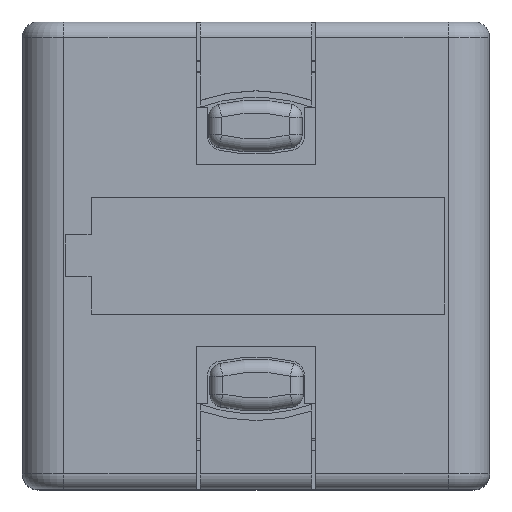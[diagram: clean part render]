
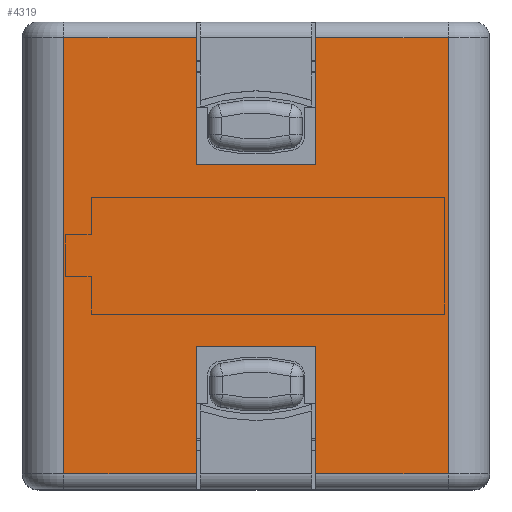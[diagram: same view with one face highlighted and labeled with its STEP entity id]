
A CAD part, top view. The second image highlights one B-rep face of the part: STEP entity #4319.
In plain terms, the highlighted planar face has unit normal (0, 0, 1).
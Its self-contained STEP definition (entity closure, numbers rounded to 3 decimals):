
#800=DIRECTION('',(1.,0.,0.));
#801=VECTOR('',#800,5.1);
#802=CARTESIAN_POINT('',(-7.4,8.4,14.5));
#803=LINE('',#802,#801);
#808=DIRECTION('',(-1.,0.,0.));
#809=VECTOR('',#808,4.6);
#810=CARTESIAN_POINT('',(2.3,3.5,14.5));
#811=LINE('',#810,#809);
#824=DIRECTION('',(0.,-1.,0.));
#825=VECTOR('',#824,4.9);
#826=CARTESIAN_POINT('',(-2.3,8.4,14.5));
#827=LINE('',#826,#825);
#941=DIRECTION('',(0.,1.,0.));
#942=VECTOR('',#941,4.9);
#943=CARTESIAN_POINT('',(2.3,3.5,14.5));
#944=LINE('',#943,#942);
#1006=DIRECTION('',(1.,0.,0.));
#1007=VECTOR('',#1006,5.1);
#1008=CARTESIAN_POINT('',(2.3,8.4,14.5));
#1009=LINE('',#1008,#1007);
#1014=DIRECTION('',(0.,-1.,0.));
#1015=VECTOR('',#1014,16.8);
#1016=CARTESIAN_POINT('',(7.4,8.4,14.5));
#1017=LINE('',#1016,#1015);
#1359=DIRECTION('',(-1.,0.,0.));
#1360=VECTOR('',#1359,5.1);
#1361=CARTESIAN_POINT('',(7.4,-8.4,14.5));
#1362=LINE('',#1361,#1360);
#1385=DIRECTION('',(0.,1.,0.));
#1386=VECTOR('',#1385,4.9);
#1387=CARTESIAN_POINT('',(2.3,-8.4,14.5));
#1388=LINE('',#1387,#1386);
#2244=DIRECTION('',(0.,-1.,0.));
#2245=VECTOR('',#2244,4.9);
#2246=CARTESIAN_POINT('',(-2.3,-3.5,14.5));
#2247=LINE('',#2246,#2245);
#2298=DIRECTION('',(0.,1.,0.));
#2299=VECTOR('',#2298,16.8);
#2300=CARTESIAN_POINT('',(-7.4,-8.4,14.5));
#2301=LINE('',#2300,#2299);
#2325=DIRECTION('',(-1.,0.,0.));
#2326=VECTOR('',#2325,5.1);
#2327=CARTESIAN_POINT('',(-2.3,-8.4,14.5));
#2328=LINE('',#2327,#2326);
#2352=DIRECTION('',(1.,0.,0.));
#2353=VECTOR('',#2352,4.6);
#2354=CARTESIAN_POINT('',(-2.3,-3.5,14.5));
#2355=LINE('',#2354,#2353);
#2701=CARTESIAN_POINT('',(2.3,3.5,14.5));
#2702=CARTESIAN_POINT('',(-2.3,3.5,14.5));
#2703=VERTEX_POINT('',#2701);
#2704=VERTEX_POINT('',#2702);
#2705=CARTESIAN_POINT('',(2.3,8.4,14.5));
#2706=VERTEX_POINT('',#2705);
#2707=CARTESIAN_POINT('',(7.4,8.4,14.5));
#2708=VERTEX_POINT('',#2707);
#2709=CARTESIAN_POINT('',(7.4,-8.4,14.5));
#2710=VERTEX_POINT('',#2709);
#2711=CARTESIAN_POINT('',(2.3,-8.4,14.5));
#2712=VERTEX_POINT('',#2711);
#2713=CARTESIAN_POINT('',(2.3,-3.5,14.5));
#2714=VERTEX_POINT('',#2713);
#2715=CARTESIAN_POINT('',(-2.3,-3.5,14.5));
#2716=VERTEX_POINT('',#2715);
#2717=CARTESIAN_POINT('',(-2.3,-8.4,14.5));
#2718=VERTEX_POINT('',#2717);
#2719=CARTESIAN_POINT('',(-7.4,-8.4,14.5));
#2720=VERTEX_POINT('',#2719);
#2721=CARTESIAN_POINT('',(-7.4,8.4,14.5));
#2722=VERTEX_POINT('',#2721);
#2723=CARTESIAN_POINT('',(-2.3,8.4,14.5));
#2724=VERTEX_POINT('',#2723);
#4289=CARTESIAN_POINT('',(0.,0.,14.5));
#4290=DIRECTION('',(0.,0.,1.));
#4291=DIRECTION('',(1.,0.,0.));
#4292=AXIS2_PLACEMENT_3D('',#4289,#4290,#4291);
#4293=PLANE('',#4292);
#4295=ORIENTED_EDGE('',*,*,#4294,.F.);
#4297=ORIENTED_EDGE('',*,*,#4296,.T.);
#4299=ORIENTED_EDGE('',*,*,#4298,.T.);
#4301=ORIENTED_EDGE('',*,*,#4300,.T.);
#4303=ORIENTED_EDGE('',*,*,#4302,.T.);
#4305=ORIENTED_EDGE('',*,*,#4304,.T.);
#4307=ORIENTED_EDGE('',*,*,#4306,.F.);
#4309=ORIENTED_EDGE('',*,*,#4308,.T.);
#4311=ORIENTED_EDGE('',*,*,#4310,.T.);
#4313=ORIENTED_EDGE('',*,*,#4312,.T.);
#4314=ORIENTED_EDGE('',*,*,#4279,.T.);
#4316=ORIENTED_EDGE('',*,*,#4315,.T.);
#4317=EDGE_LOOP('',(#4295,#4297,#4299,#4301,#4303,#4305,#4307,#4309,#4311,#4313,
#4314,#4316));
#4318=FACE_OUTER_BOUND('',#4317,.F.);
#4319=ADVANCED_FACE('',(#4318),#4293,.T.);
#4279=EDGE_CURVE('',#2722,#2724,#803,.T.);
#4294=EDGE_CURVE('',#2703,#2704,#811,.T.);
#4296=EDGE_CURVE('',#2703,#2706,#944,.T.);
#4298=EDGE_CURVE('',#2706,#2708,#1009,.T.);
#4300=EDGE_CURVE('',#2708,#2710,#1017,.T.);
#4302=EDGE_CURVE('',#2710,#2712,#1362,.T.);
#4304=EDGE_CURVE('',#2712,#2714,#1388,.T.);
#4306=EDGE_CURVE('',#2716,#2714,#2355,.T.);
#4308=EDGE_CURVE('',#2716,#2718,#2247,.T.);
#4310=EDGE_CURVE('',#2718,#2720,#2328,.T.);
#4312=EDGE_CURVE('',#2720,#2722,#2301,.T.);
#4315=EDGE_CURVE('',#2724,#2704,#827,.T.);
